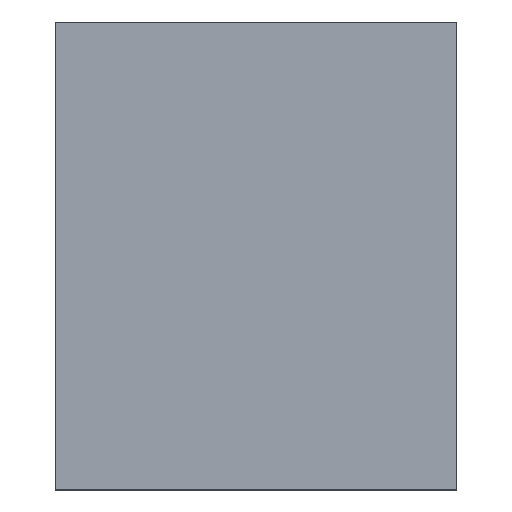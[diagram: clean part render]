
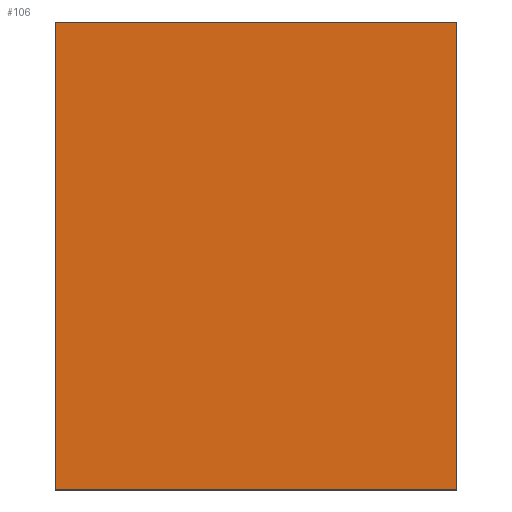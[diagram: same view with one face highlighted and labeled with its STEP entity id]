
A CAD part, top view. The second image highlights one B-rep face of the part: STEP entity #106.
In plain terms, the highlighted planar face has unit normal (0, 0, 1).
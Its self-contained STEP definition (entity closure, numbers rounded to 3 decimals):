
#20=FACE_OUTER_BOUND('',#26,.T.);
#26=EDGE_LOOP('',(#91,#92,#93,#94));
#28=LINE('',#159,#40);
#34=LINE('',#171,#46);
#36=LINE('',#174,#48);
#38=LINE('',#177,#50);
#40=VECTOR('',#132,1.);
#46=VECTOR('',#140,1.);
#48=VECTOR('',#144,1.);
#50=VECTOR('',#148,1.);
#52=VERTEX_POINT('',#156);
#53=VERTEX_POINT('',#158);
#56=VERTEX_POINT('',#165);
#58=VERTEX_POINT('',#169);
#60=EDGE_CURVE('',#52,#53,#28,.T.);
#66=EDGE_CURVE('',#56,#58,#34,.T.);
#68=EDGE_CURVE('',#52,#56,#36,.T.);
#70=EDGE_CURVE('',#53,#58,#38,.T.);
#91=ORIENTED_EDGE('',*,*,#60,.F.);
#92=ORIENTED_EDGE('',*,*,#68,.T.);
#93=ORIENTED_EDGE('',*,*,#66,.T.);
#94=ORIENTED_EDGE('',*,*,#70,.F.);
#100=PLANE('',#126);
#106=ADVANCED_FACE('',(#20),#100,.T.);
#126=AXIS2_PLACEMENT_3D('',#179,#151,#152);
#132=DIRECTION('',(0.,1.,0.));
#140=DIRECTION('',(0.,1.,0.));
#144=DIRECTION('',(1.,0.,0.));
#148=DIRECTION('',(1.,0.,0.));
#151=DIRECTION('center_axis',(0.,0.,1.));
#152=DIRECTION('ref_axis',(1.,0.,0.));
#156=CARTESIAN_POINT('',(-8.1,-18.7,-3.85));
#158=CARTESIAN_POINT('',(-8.1,-17.3,-3.85));
#159=CARTESIAN_POINT('',(-8.1,-18.7,-3.85));
#165=CARTESIAN_POINT('',(-6.9,-18.7,-3.85));
#169=CARTESIAN_POINT('',(-6.9,-17.3,-3.85));
#171=CARTESIAN_POINT('',(-6.9,-18.7,-3.85));
#174=CARTESIAN_POINT('',(-8.1,-18.7,-3.85));
#177=CARTESIAN_POINT('',(-8.1,-17.3,-3.85));
#179=CARTESIAN_POINT('Origin',(-8.1,-18.7,-3.85));
